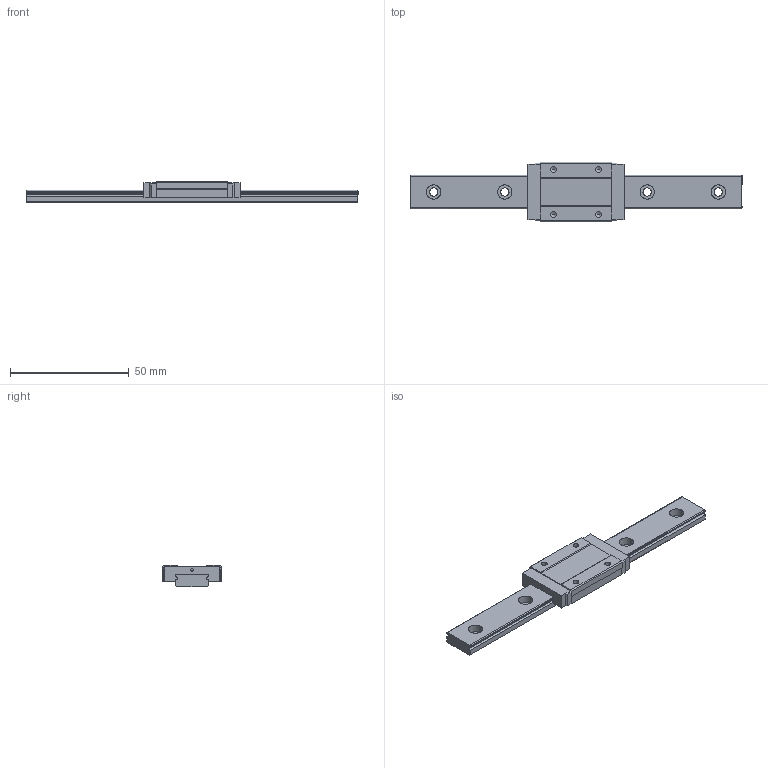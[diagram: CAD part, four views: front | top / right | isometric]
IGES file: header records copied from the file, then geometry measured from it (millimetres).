
Global section: file name: No Iges File Name specified; native system: AutoDesk Inventor R11.0; preprocessor: AutoDesk Inventor Iges Exporter R11.0; author: No Author specified; organization: No Organization specified; date: 20150221.131806; units: millimetre
Bounding box: 140 x 25 x 9 mm (x, y, z)
Surface area: 9347.9 mm2 (no closed solid volume)
Topology: 0 solids, 0 shells, 119 faces, 772 edges, 764 vertices
Faces by surface type: bspline 119
